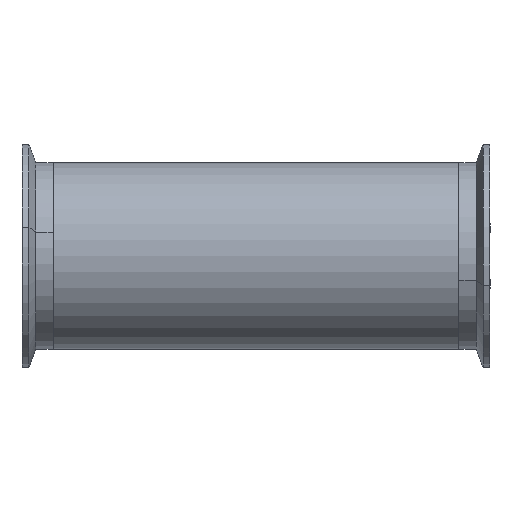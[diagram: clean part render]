
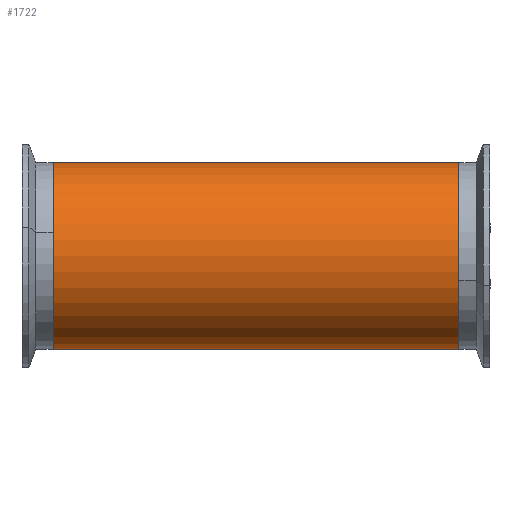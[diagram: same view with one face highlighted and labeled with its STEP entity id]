
A CAD part, front view. The second image highlights one B-rep face of the part: STEP entity #1722.
In plain terms, the highlighted cylindrical face has radius 38.1 mm (diameter 76.2 mm), a partial arc.
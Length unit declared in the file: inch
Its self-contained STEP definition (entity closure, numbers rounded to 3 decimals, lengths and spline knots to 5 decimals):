
#205 = ORIENTED_EDGE ( 'NONE', *, *, #1680, .T. ) ;
#230 = CYLINDRICAL_SURFACE ( 'NONE', #1290, 1.5 ) ;
#244 = VECTOR ( 'NONE', #507, 39.37008 ) ;
#298 = CARTESIAN_POINT ( 'NONE',  ( -3.25, 0., -1.5 ) ) ;
#313 = CARTESIAN_POINT ( 'NONE',  ( 3.25, 0., 0. ) ) ;
#322 = ORIENTED_EDGE ( 'NONE', *, *, #839, .F. ) ;
#336 = AXIS2_PLACEMENT_3D ( 'NONE', #1781, #847, #1615 ) ;
#401 = VERTEX_POINT ( 'NONE', #298 ) ;
#446 = LINE ( 'NONE', #566, #556 ) ;
#473 = DIRECTION ( 'NONE',  ( 0., 0., -1. ) ) ;
#507 = DIRECTION ( 'NONE',  ( -1., 0., 0. ) ) ;
#556 = VECTOR ( 'NONE', #1179, 39.37008 ) ;
#566 = CARTESIAN_POINT ( 'NONE',  ( 3.25, 0., -1.5 ) ) ;
#700 = CARTESIAN_POINT ( 'NONE',  ( 3.25, 0., 0. ) ) ;
#771 = ORIENTED_EDGE ( 'NONE', *, *, #1924, .F. ) ;
#839 = EDGE_CURVE ( 'NONE', #1877, #401, #446, .T. ) ;
#847 = DIRECTION ( 'NONE',  ( 1., 0., 0. ) ) ;
#889 = DIRECTION ( 'NONE',  ( 0., 0., 1. ) ) ;
#959 = CARTESIAN_POINT ( 'NONE',  ( 3.25, 0., 1.5 ) ) ;
#1169 = EDGE_CURVE ( 'NONE', #1357, #401, #1201, .T. ) ;
#1179 = DIRECTION ( 'NONE',  ( -1., 0., 0. ) ) ;
#1201 = CIRCLE ( 'NONE', #336, 1.5 ) ;
#1255 = ORIENTED_EDGE ( 'NONE', *, *, #1169, .T. ) ;
#1290 = AXIS2_PLACEMENT_3D ( 'NONE', #700, #1813, #889 ) ;
#1324 = CIRCLE ( 'NONE', #1949, 1.5 ) ;
#1327 = FACE_OUTER_BOUND ( 'NONE', #1858, .T. ) ;
#1357 = VERTEX_POINT ( 'NONE', #1839 ) ;
#1455 = CARTESIAN_POINT ( 'NONE',  ( 3.25, 0., 1.5 ) ) ;
#1520 = VERTEX_POINT ( 'NONE', #1455 ) ;
#1615 = DIRECTION ( 'NONE',  ( 0., 0., -1. ) ) ;
#1680 = EDGE_CURVE ( 'NONE', #1520, #1357, #1918, .T. ) ;
#1714 = CARTESIAN_POINT ( 'NONE',  ( 3.25, 0., -1.5 ) ) ;
#1722 = ADVANCED_FACE ( 'NONE', ( #1327 ), #230, .T. ) ;
#1781 = CARTESIAN_POINT ( 'NONE',  ( -3.25, 0., 0. ) ) ;
#1813 = DIRECTION ( 'NONE',  ( -1., 0., 0. ) ) ;
#1839 = CARTESIAN_POINT ( 'NONE',  ( -3.25, 0., 1.5 ) ) ;
#1857 = DIRECTION ( 'NONE',  ( 1., 0., 0. ) ) ;
#1858 = EDGE_LOOP ( 'NONE', ( #322, #771, #205, #1255 ) ) ;
#1877 = VERTEX_POINT ( 'NONE', #1714 ) ;
#1918 = LINE ( 'NONE', #959, #244 ) ;
#1924 = EDGE_CURVE ( 'NONE', #1520, #1877, #1324, .T. ) ;
#1949 = AXIS2_PLACEMENT_3D ( 'NONE', #313, #1857, #473 ) ;
